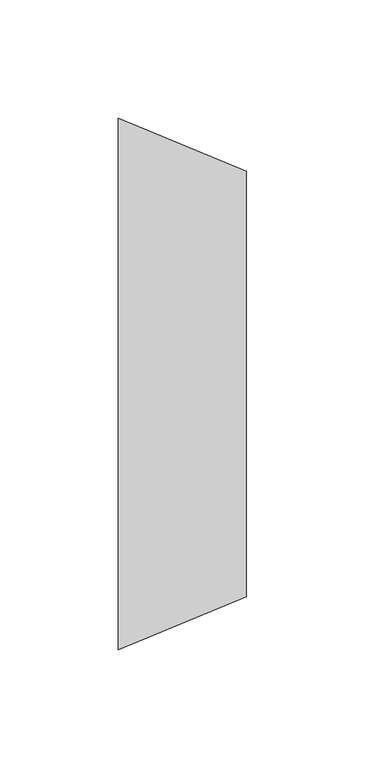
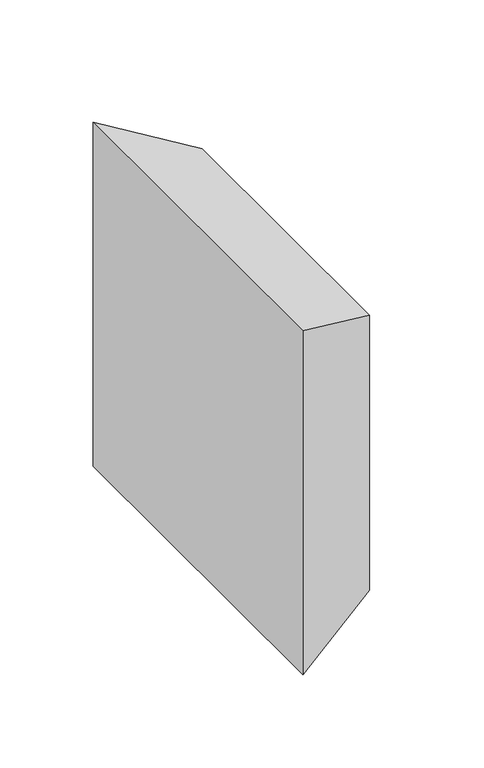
"""IFC4 building model written with IfcOpenShell, lengths in millimetres: duct fitting geometry, M_Transição retangular - Ângulo : 45 Graus."""

from ifc_helpers import new_model, si_unit, origin, place, context, project, spatial, faceted_brep, source, transform, mapped, element, save


def duct_fitting_72ff0d78(model_context):
    return source(origin(), model_context, "Body", "Brep", [
        faceted_brep([(54.3198052, 90.0, 90.0), (54.3198052, -90.0, 90.0), (54.3198052, -90.0, -90.0), (54.3198052, 90.0, -90.0), (0.0, 112.5, 112.5), (0.0, 112.5, -112.5), (0.0, -112.5, -112.5), (0.0, -112.5, 112.5)], [[[0, 1, 2, 3]], [[4, 5, 6, 7]], [[4, 0, 3, 5]], [[5, 3, 2, 6]], [[6, 2, 1, 7]], [[7, 1, 0, 4]]]),
    ])


if __name__ == "__main__":
    model = new_model("IFC4")
    model_context = context("Model", 3, world=origin())
    ifc_project = project(units=[si_unit("LENGTHUNIT", "METRE", prefix="MILLI")], contexts=[model_context])
    site = spatial("IfcSite", under=ifc_project)
    building = spatial("IfcBuilding", under=site)
    placement = place(None, origin())
    duct_fitting_shape = duct_fitting_72ff0d78(model_context)
    element("IfcDuctFitting", 1, ObjectType="M_Transição retangular - Ângulo : 45 Graus", at=placement, inside=building, context=model_context, shape_type="MappedRepresentation", body=[
        mapped(duct_fitting_shape, transform((0.0, 0.0, 0.0), x_axis=(1.0, 0.0, 0.0), y_axis=(0.0, 1.0, 0.0), z_axis=(0.0, 0.0, 1.0))),
    ])
    save(model, "model.ifc")
